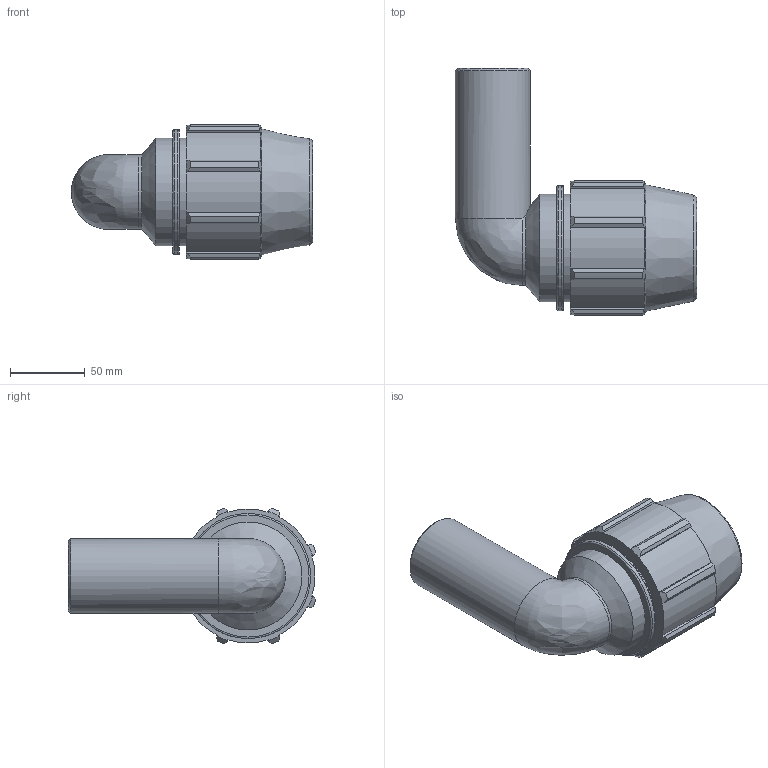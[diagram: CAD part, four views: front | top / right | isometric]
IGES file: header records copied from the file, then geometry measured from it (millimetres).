
Global section: file name: 073500050050_183500050050_0735060500500A.ipt; native system: Autodesk Inventor 2015; preprocessor: unknown; author: KIM; date: 20170608.042243; units: millimetre
Bounding box: 161 x 165.16 x 90.33 mm (x, y, z)
Volume: 529163.9 mm3; surface area: 93907.9 mm2
Topology: 1 solids, 1 shells, 82 faces, 231 edges, 154 vertices
Faces by surface type: plane 39, cylinder 21, cone 12, revolution 9, bspline 1
Full cylindrical faces by diameter (mm): 50 x1, 72 x2, 83.52 x1
